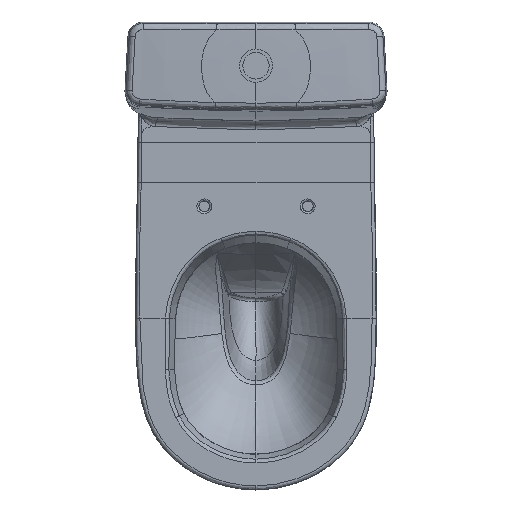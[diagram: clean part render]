
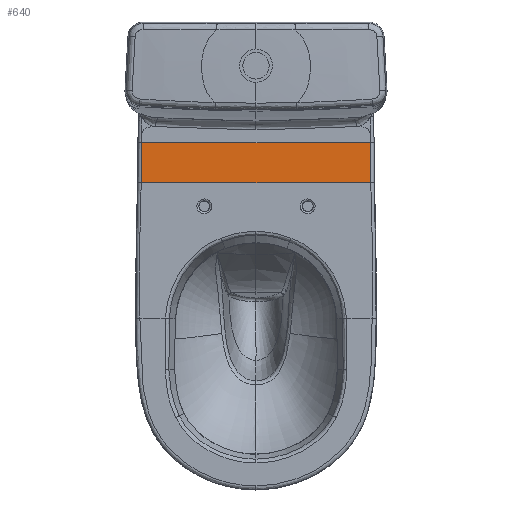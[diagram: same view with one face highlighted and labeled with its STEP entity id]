
A CAD part, top view. The second image highlights one B-rep face of the part: STEP entity #640.
In plain terms, the highlighted planar face has unit normal (0, 0, 1).
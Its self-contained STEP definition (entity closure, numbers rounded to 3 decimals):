
#444=PLANE('',#6590);
#640=ADVANCED_FACE('',(#1207),#444,.T.);
#1207=FACE_OUTER_BOUND('',#1619,.T.);
#1619=EDGE_LOOP('',(#2386,#2387,#2388,#2389,#2390,#2391));
#2386=ORIENTED_EDGE('',*,*,#4943,.T.);
#2387=ORIENTED_EDGE('',*,*,#4950,.T.);
#2388=ORIENTED_EDGE('',*,*,#4965,.F.);
#2389=ORIENTED_EDGE('',*,*,#4966,.F.);
#2390=ORIENTED_EDGE('',*,*,#4967,.T.);
#2391=ORIENTED_EDGE('',*,*,#4944,.T.);
#4255=VERTEX_POINT('',#12432);
#4265=VERTEX_POINT('',#12850);
#4266=VERTEX_POINT('',#12855);
#4270=VERTEX_POINT('',#12890);
#4279=VERTEX_POINT('',#13407);
#4280=VERTEX_POINT('',#13412);
#4943=EDGE_CURVE('',#4265,#4255,#5948,.T.);
#4944=EDGE_CURVE('',#4266,#4265,#5949,.T.);
#4950=EDGE_CURVE('',#4255,#4270,#5955,.T.);
#4965=EDGE_CURVE('',#4279,#4270,#5969,.T.);
#4966=EDGE_CURVE('',#4280,#4279,#5970,.T.);
#4967=EDGE_CURVE('',#4280,#4266,#5971,.T.);
#5948=B_SPLINE_CURVE_WITH_KNOTS('',3,(#12846,#12847,#12848,#12849),
 .UNSPECIFIED.,.F.,.F.,(4,4),(0.,1.),.UNSPECIFIED.);
#5949=B_SPLINE_CURVE_WITH_KNOTS('',3,(#12851,#12852,#12853,#12854),
 .UNSPECIFIED.,.F.,.F.,(4,4),(0.,1.),.UNSPECIFIED.);
#5955=B_SPLINE_CURVE_WITH_KNOTS('',3,(#12891,#12892,#12893,#12894),
 .UNSPECIFIED.,.F.,.F.,(4,4),(0.,1.),.UNSPECIFIED.);
#5969=B_SPLINE_CURVE_WITH_KNOTS('',3,(#13403,#13404,#13405,#13406),
 .UNSPECIFIED.,.F.,.F.,(4,4),(0.,1.),.UNSPECIFIED.);
#5970=B_SPLINE_CURVE_WITH_KNOTS('',3,(#13408,#13409,#13410,#13411),
 .UNSPECIFIED.,.F.,.F.,(4,4),(0.,1.),.UNSPECIFIED.);
#5971=B_SPLINE_CURVE_WITH_KNOTS('',3,(#13413,#13414,#13415,#13416),
 .UNSPECIFIED.,.F.,.F.,(4,4),(0.,1.),.UNSPECIFIED.);
#6590=AXIS2_PLACEMENT_3D('',#13417,#6797,#6798);
#6797=DIRECTION('',(0.,0.,1.));
#6798=DIRECTION('',(0.,1.,0.));
#12432=CARTESIAN_POINT('',(-171.873,80.,-0.003));
#12846=CARTESIAN_POINT('',(-0.005,80.,-0.005));
#12847=CARTESIAN_POINT('',(-57.293,80.,-0.005));
#12848=CARTESIAN_POINT('',(-114.581,80.,-0.005));
#12849=CARTESIAN_POINT('',(-171.869,80.,-0.005));
#12850=CARTESIAN_POINT('',(0.,80.,-0.004));
#12851=CARTESIAN_POINT('',(171.869,80.,-0.005));
#12852=CARTESIAN_POINT('',(114.581,80.,-0.005));
#12853=CARTESIAN_POINT('',(57.293,80.,-0.005));
#12854=CARTESIAN_POINT('',(0.005,80.,-0.005));
#12855=CARTESIAN_POINT('',(171.873,80.,-0.003));
#12890=CARTESIAN_POINT('',(-171.872,20.,-0.003));
#12891=CARTESIAN_POINT('',(-171.878,80.,-0.005));
#12892=CARTESIAN_POINT('',(-171.878,60.,-0.005));
#12893=CARTESIAN_POINT('',(-171.878,40.,-0.005));
#12894=CARTESIAN_POINT('',(-171.878,20.,-0.005));
#13403=CARTESIAN_POINT('',(-0.004,20.,0.));
#13404=CARTESIAN_POINT('',(-57.292,20.,0.));
#13405=CARTESIAN_POINT('',(-114.581,20.,0.));
#13406=CARTESIAN_POINT('',(-171.869,20.,0.));
#13407=CARTESIAN_POINT('',(0.,20.,-0.004));
#13408=CARTESIAN_POINT('',(171.869,20.,0.));
#13409=CARTESIAN_POINT('',(114.581,20.,0.));
#13410=CARTESIAN_POINT('',(57.292,20.,0.));
#13411=CARTESIAN_POINT('',(0.004,20.,0.));
#13412=CARTESIAN_POINT('',(171.872,20.,-0.003));
#13413=CARTESIAN_POINT('',(171.878,20.,-0.005));
#13414=CARTESIAN_POINT('',(171.878,40.,-0.005));
#13415=CARTESIAN_POINT('',(171.878,60.,-0.005));
#13416=CARTESIAN_POINT('',(171.878,80.,-0.005));
#13417=CARTESIAN_POINT('',(-85.943,20.,-0.005));
